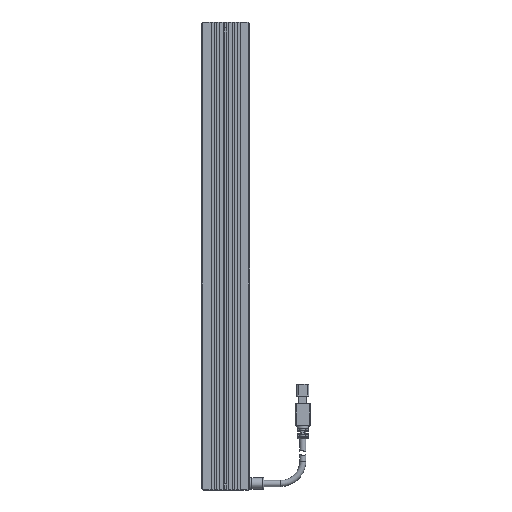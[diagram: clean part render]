
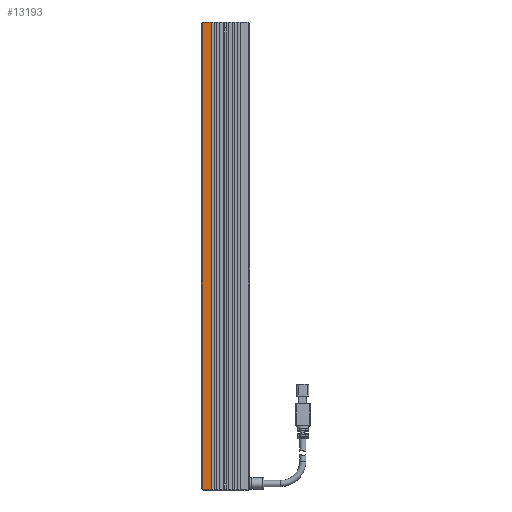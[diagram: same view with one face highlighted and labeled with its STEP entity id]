
A CAD part, top view. The second image highlights one B-rep face of the part: STEP entity #13193.
In plain terms, the highlighted planar face has unit normal (0, 0, 1).
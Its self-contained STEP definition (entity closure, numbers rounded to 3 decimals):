
#89 = EDGE_CURVE ( 'NONE', #3146, #4339, #5376, .T. ) ;
#161 = CARTESIAN_POINT ( 'NONE',  ( -15., 156.5, 12.5 ) ) ;
#746 = CARTESIAN_POINT ( 'NONE',  ( -9.7, 156.5, 12.5 ) ) ;
#768 = EDGE_CURVE ( 'NONE', #10677, #15024, #12395, .T. ) ;
#897 = VECTOR ( 'NONE', #15292, 1000. ) ;
#1027 = VECTOR ( 'NONE', #12192, 1000. ) ;
#1442 = CARTESIAN_POINT ( 'NONE',  ( -15., -156.5, 12.5 ) ) ;
#2075 = VECTOR ( 'NONE', #6559, 1000. ) ;
#2169 = ORIENTED_EDGE ( 'NONE', *, *, #15191, .T. ) ;
#2357 = EDGE_LOOP ( 'NONE', ( #2918, #6039, #15018, #3134, #2169, #5055 ) ) ;
#2383 = DIRECTION ( 'NONE',  ( -1., 0., 0. ) ) ;
#2659 = CARTESIAN_POINT ( 'NONE',  ( -15.5, 156., 12.5 ) ) ;
#2918 = ORIENTED_EDGE ( 'NONE', *, *, #13017, .F. ) ;
#2979 = CARTESIAN_POINT ( 'NONE',  ( -15.5, -156., 12.5 ) ) ;
#3134 = ORIENTED_EDGE ( 'NONE', *, *, #7212, .T. ) ;
#3146 = VERTEX_POINT ( 'NONE', #161 ) ;
#3873 = CARTESIAN_POINT ( 'NONE',  ( -15.5, 156.5, 12.5 ) ) ;
#4339 = VERTEX_POINT ( 'NONE', #2659 ) ;
#5055 = ORIENTED_EDGE ( 'NONE', *, *, #768, .F. ) ;
#5376 = LINE ( 'NONE', #15055, #2075 ) ;
#6039 = ORIENTED_EDGE ( 'NONE', *, *, #89, .T. ) ;
#6251 = CARTESIAN_POINT ( 'NONE',  ( -9.7, -156.5, 12.5 ) ) ;
#6559 = DIRECTION ( 'NONE',  ( -0.707, -0.707, 0. ) ) ;
#6633 = LINE ( 'NONE', #9539, #897 ) ;
#6656 = VECTOR ( 'NONE', #15158, 1000. ) ;
#6796 = DIRECTION ( 'NONE',  ( 0.707, -0.707, 0. ) ) ;
#6818 = DIRECTION ( 'NONE',  ( 0., 0., -1. ) ) ;
#7212 = EDGE_CURVE ( 'NONE', #12254, #16351, #12861, .T. ) ;
#9126 = VECTOR ( 'NONE', #6796, 1000. ) ;
#9539 = CARTESIAN_POINT ( 'NONE',  ( -15.5, -156.5, 12.5 ) ) ;
#10653 = DIRECTION ( 'NONE',  ( 0., -1., 0. ) ) ;
#10677 = VERTEX_POINT ( 'NONE', #746 ) ;
#10895 = AXIS2_PLACEMENT_3D ( 'NONE', #3873, #6818, #2383 ) ;
#12003 = CARTESIAN_POINT ( 'NONE',  ( -15.5, 156.5, 12.5 ) ) ;
#12192 = DIRECTION ( 'NONE',  ( 1., 0., 0. ) ) ;
#12236 = FACE_OUTER_BOUND ( 'NONE', #2357, .T. ) ;
#12254 = VERTEX_POINT ( 'NONE', #2979 ) ;
#12395 = LINE ( 'NONE', #12521, #6656 ) ;
#12521 = CARTESIAN_POINT ( 'NONE',  ( -9.7, 156.5, 12.5 ) ) ;
#12601 = CARTESIAN_POINT ( 'NONE',  ( -16., -155.5, 12.5 ) ) ;
#12848 = LINE ( 'NONE', #12003, #15739 ) ;
#12861 = LINE ( 'NONE', #12601, #9126 ) ;
#13017 = EDGE_CURVE ( 'NONE', #3146, #10677, #17169, .T. ) ;
#13193 = ADVANCED_FACE ( 'NONE', ( #12236 ), #17979, .F. ) ;
#14484 = EDGE_CURVE ( 'NONE', #4339, #12254, #12848, .T. ) ;
#14941 = CARTESIAN_POINT ( 'NONE',  ( -15.5, 156.5, 12.5 ) ) ;
#15018 = ORIENTED_EDGE ( 'NONE', *, *, #14484, .T. ) ;
#15024 = VERTEX_POINT ( 'NONE', #6251 ) ;
#15055 = CARTESIAN_POINT ( 'NONE',  ( -15., 156.5, 12.5 ) ) ;
#15158 = DIRECTION ( 'NONE',  ( 0., -1., 0. ) ) ;
#15191 = EDGE_CURVE ( 'NONE', #16351, #15024, #6633, .T. ) ;
#15292 = DIRECTION ( 'NONE',  ( 1., 0., 0. ) ) ;
#15739 = VECTOR ( 'NONE', #10653, 1000. ) ;
#16351 = VERTEX_POINT ( 'NONE', #1442 ) ;
#17169 = LINE ( 'NONE', #14941, #1027 ) ;
#17979 = PLANE ( 'NONE',  #10895 ) ;
